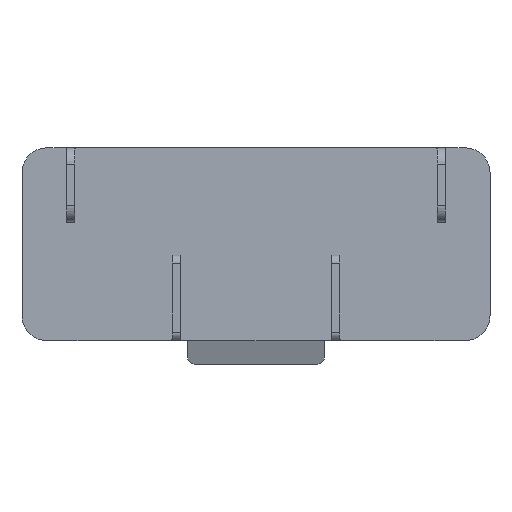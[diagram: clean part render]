
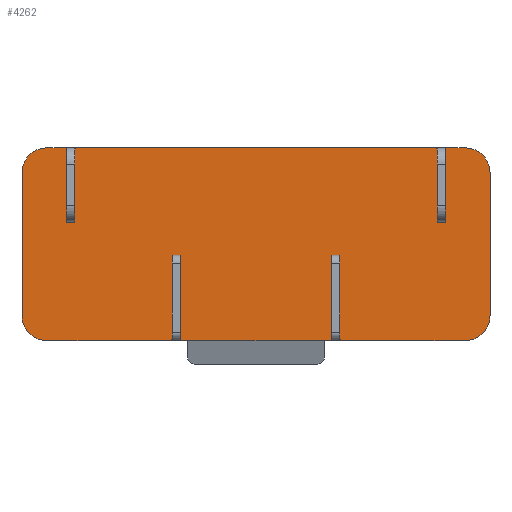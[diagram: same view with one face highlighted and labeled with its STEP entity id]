
A CAD part, top view. The second image highlights one B-rep face of the part: STEP entity #4262.
In plain terms, the highlighted planar face has unit normal (0, 0, 1).
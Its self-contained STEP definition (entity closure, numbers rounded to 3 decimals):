
#72=PLANE('',#4548);
#240=FACE_OUTER_BOUND('',#472,.T.);
#472=EDGE_LOOP('',(#3143,#3144,#3145,#3146,#3147,#3148,#3149,#3150,#3151,
#3152,#3153,#3154,#3155,#3156,#3157,#3158,#3159,#3160,#3161,#3162,#3163,
#3164,#3165,#3166,#3167,#3168,#3169,#3170,#3171,#3172,#3173,#3174));
#654=LINE('',#6146,#1136);
#675=LINE('',#6209,#1157);
#679=LINE('',#6216,#1161);
#682=LINE('',#6222,#1164);
#685=LINE('',#6230,#1167);
#689=LINE('',#6237,#1171);
#692=LINE('',#6243,#1174);
#695=LINE('',#6249,#1177);
#698=LINE('',#6255,#1180);
#699=LINE('',#6257,#1181);
#703=LINE('',#6264,#1185);
#706=LINE('',#6270,#1188);
#708=LINE('',#6273,#1190);
#738=LINE('',#6359,#1220);
#752=LINE('',#6399,#1234);
#754=LINE('',#6403,#1236);
#756=LINE('',#6407,#1238);
#758=LINE('',#6410,#1240);
#759=LINE('',#6413,#1241);
#761=LINE('',#6417,#1243);
#763=LINE('',#6421,#1245);
#765=LINE('',#6425,#1247);
#767=LINE('',#6429,#1249);
#769=LINE('',#6433,#1251);
#771=LINE('',#6436,#1253);
#772=LINE('',#6439,#1254);
#774=LINE('',#6443,#1256);
#776=LINE('',#6446,#1258);
#1136=VECTOR('',#4882,10.);
#1157=VECTOR('',#4945,10.);
#1161=VECTOR('',#4951,10.);
#1164=VECTOR('',#4956,10.);
#1167=VECTOR('',#4961,10.);
#1171=VECTOR('',#4967,10.);
#1174=VECTOR('',#4972,10.);
#1177=VECTOR('',#4977,10.);
#1180=VECTOR('',#4982,10.);
#1181=VECTOR('',#4985,10.);
#1185=VECTOR('',#4991,10.);
#1188=VECTOR('',#4996,10.);
#1190=VECTOR('',#5000,10.);
#1220=VECTOR('',#5070,10.);
#1234=VECTOR('',#5116,10.);
#1236=VECTOR('',#5120,10.);
#1238=VECTOR('',#5124,10.);
#1240=VECTOR('',#5128,10.);
#1241=VECTOR('',#5131,10.);
#1243=VECTOR('',#5135,10.);
#1245=VECTOR('',#5139,10.);
#1247=VECTOR('',#5143,10.);
#1249=VECTOR('',#5147,10.);
#1251=VECTOR('',#5151,10.);
#1253=VECTOR('',#5155,10.);
#1254=VECTOR('',#5158,10.);
#1256=VECTOR('',#5162,10.);
#1258=VECTOR('',#5166,10.);
#1615=CIRCLE('',#4464,36.);
#1617=CIRCLE('',#4468,36.);
#1639=CIRCLE('',#4517,36.);
#1640=CIRCLE('',#4520,36.);
#1779=VERTEX_POINT('',#6136);
#1780=VERTEX_POINT('',#6137);
#1783=VERTEX_POINT('',#6145);
#1785=VERTEX_POINT('',#6151);
#1803=VERTEX_POINT('',#6206);
#1804=VERTEX_POINT('',#6208);
#1806=VERTEX_POINT('',#6214);
#1808=VERTEX_POINT('',#6220);
#1811=VERTEX_POINT('',#6227);
#1812=VERTEX_POINT('',#6229);
#1814=VERTEX_POINT('',#6235);
#1816=VERTEX_POINT('',#6241);
#1818=VERTEX_POINT('',#6247);
#1820=VERTEX_POINT('',#6253);
#1822=VERTEX_POINT('',#6262);
#1824=VERTEX_POINT('',#6268);
#1858=VERTEX_POINT('',#6351);
#1859=VERTEX_POINT('',#6352);
#1860=VERTEX_POINT('',#6357);
#1861=VERTEX_POINT('',#6361);
#1869=VERTEX_POINT('',#6396);
#1870=VERTEX_POINT('',#6398);
#1871=VERTEX_POINT('',#6402);
#1872=VERTEX_POINT('',#6406);
#1873=VERTEX_POINT('',#6412);
#1874=VERTEX_POINT('',#6416);
#1875=VERTEX_POINT('',#6420);
#1876=VERTEX_POINT('',#6424);
#1877=VERTEX_POINT('',#6428);
#1878=VERTEX_POINT('',#6432);
#1879=VERTEX_POINT('',#6438);
#1880=VERTEX_POINT('',#6442);
#2210=EDGE_CURVE('',#1779,#1780,#1615,.T.);
#2214=EDGE_CURVE('',#1779,#1783,#654,.T.);
#2217=EDGE_CURVE('',#1785,#1783,#1617,.T.);
#2245=EDGE_CURVE('',#1803,#1804,#675,.T.);
#2249=EDGE_CURVE('',#1806,#1803,#679,.T.);
#2252=EDGE_CURVE('',#1808,#1806,#682,.T.);
#2255=EDGE_CURVE('',#1811,#1812,#685,.T.);
#2259=EDGE_CURVE('',#1814,#1811,#689,.T.);
#2262=EDGE_CURVE('',#1816,#1814,#692,.T.);
#2265=EDGE_CURVE('',#1818,#1816,#695,.T.);
#2268=EDGE_CURVE('',#1820,#1818,#698,.T.);
#2269=EDGE_CURVE('',#1785,#1820,#699,.T.);
#2273=EDGE_CURVE('',#1822,#1780,#703,.T.);
#2276=EDGE_CURVE('',#1824,#1822,#706,.T.);
#2278=EDGE_CURVE('',#1804,#1824,#708,.T.);
#2317=EDGE_CURVE('',#1858,#1859,#1639,.T.);
#2321=EDGE_CURVE('',#1858,#1860,#738,.T.);
#2322=EDGE_CURVE('',#1861,#1860,#1640,.T.);
#2340=EDGE_CURVE('',#1870,#1869,#752,.T.);
#2342=EDGE_CURVE('',#1871,#1870,#754,.T.);
#2344=EDGE_CURVE('',#1872,#1871,#756,.T.);
#2346=EDGE_CURVE('',#1872,#1808,#758,.T.);
#2347=EDGE_CURVE('',#1873,#1812,#759,.T.);
#2349=EDGE_CURVE('',#1874,#1873,#761,.T.);
#2351=EDGE_CURVE('',#1875,#1874,#763,.T.);
#2353=EDGE_CURVE('',#1876,#1875,#765,.T.);
#2355=EDGE_CURVE('',#1877,#1876,#767,.T.);
#2357=EDGE_CURVE('',#1878,#1877,#769,.T.);
#2359=EDGE_CURVE('',#1861,#1878,#771,.T.);
#2360=EDGE_CURVE('',#1879,#1859,#772,.T.);
#2362=EDGE_CURVE('',#1880,#1879,#774,.T.);
#2364=EDGE_CURVE('',#1869,#1880,#776,.T.);
#3143=ORIENTED_EDGE('',*,*,#2317,.F.);
#3144=ORIENTED_EDGE('',*,*,#2321,.T.);
#3145=ORIENTED_EDGE('',*,*,#2322,.F.);
#3146=ORIENTED_EDGE('',*,*,#2359,.T.);
#3147=ORIENTED_EDGE('',*,*,#2357,.T.);
#3148=ORIENTED_EDGE('',*,*,#2355,.T.);
#3149=ORIENTED_EDGE('',*,*,#2353,.T.);
#3150=ORIENTED_EDGE('',*,*,#2351,.T.);
#3151=ORIENTED_EDGE('',*,*,#2349,.T.);
#3152=ORIENTED_EDGE('',*,*,#2347,.T.);
#3153=ORIENTED_EDGE('',*,*,#2255,.F.);
#3154=ORIENTED_EDGE('',*,*,#2259,.F.);
#3155=ORIENTED_EDGE('',*,*,#2262,.F.);
#3156=ORIENTED_EDGE('',*,*,#2265,.F.);
#3157=ORIENTED_EDGE('',*,*,#2268,.F.);
#3158=ORIENTED_EDGE('',*,*,#2269,.F.);
#3159=ORIENTED_EDGE('',*,*,#2217,.T.);
#3160=ORIENTED_EDGE('',*,*,#2214,.F.);
#3161=ORIENTED_EDGE('',*,*,#2210,.T.);
#3162=ORIENTED_EDGE('',*,*,#2273,.F.);
#3163=ORIENTED_EDGE('',*,*,#2276,.F.);
#3164=ORIENTED_EDGE('',*,*,#2278,.F.);
#3165=ORIENTED_EDGE('',*,*,#2245,.F.);
#3166=ORIENTED_EDGE('',*,*,#2249,.F.);
#3167=ORIENTED_EDGE('',*,*,#2252,.F.);
#3168=ORIENTED_EDGE('',*,*,#2346,.F.);
#3169=ORIENTED_EDGE('',*,*,#2344,.T.);
#3170=ORIENTED_EDGE('',*,*,#2342,.T.);
#3171=ORIENTED_EDGE('',*,*,#2340,.T.);
#3172=ORIENTED_EDGE('',*,*,#2364,.T.);
#3173=ORIENTED_EDGE('',*,*,#2362,.T.);
#3174=ORIENTED_EDGE('',*,*,#2360,.T.);
#4262=ADVANCED_FACE('',(#240),#72,.T.);
#4464=AXIS2_PLACEMENT_3D('',#6138,#4874,#4875);
#4468=AXIS2_PLACEMENT_3D('',#6152,#4887,#4888);
#4517=AXIS2_PLACEMENT_3D('',#6353,#5063,#5064);
#4520=AXIS2_PLACEMENT_3D('',#6362,#5073,#5074);
#4548=AXIS2_PLACEMENT_3D('',#6447,#5167,#5168);
#4874=DIRECTION('center_axis',(0.,0.,1.));
#4875=DIRECTION('ref_axis',(0.707,0.707,0.));
#4882=DIRECTION('',(0.,-1.,0.));
#4887=DIRECTION('center_axis',(0.,0.,1.));
#4888=DIRECTION('ref_axis',(0.707,-0.707,0.));
#4945=DIRECTION('',(1.,0.,0.));
#4951=DIRECTION('',(0.,-1.,0.));
#4956=DIRECTION('',(0.164,-0.986,0.));
#4961=DIRECTION('',(-0.164,-0.986,0.));
#4967=DIRECTION('',(0.,-1.,0.));
#4972=DIRECTION('',(-1.,0.,0.));
#4977=DIRECTION('',(0.,1.,0.));
#4982=DIRECTION('',(-0.164,0.986,0.));
#4985=DIRECTION('',(-1.,0.,0.));
#4991=DIRECTION('',(1.,0.,0.));
#4996=DIRECTION('',(0.164,0.986,0.));
#5000=DIRECTION('',(0.,1.,0.));
#5063=DIRECTION('center_axis',(0.,0.,-1.));
#5064=DIRECTION('ref_axis',(-0.707,0.707,0.));
#5070=DIRECTION('',(0.,-1.,0.));
#5073=DIRECTION('center_axis',(0.,0.,-1.));
#5074=DIRECTION('ref_axis',(-0.707,-0.707,0.));
#5116=DIRECTION('',(-1.,0.,0.));
#5120=DIRECTION('',(0.,-1.,0.));
#5124=DIRECTION('',(-0.164,-0.986,0.));
#5128=DIRECTION('',(1.,0.,0.));
#5131=DIRECTION('',(1.,0.,0.));
#5135=DIRECTION('',(0.164,-0.986,0.));
#5139=DIRECTION('',(0.,-1.,0.));
#5143=DIRECTION('',(1.,0.,0.));
#5147=DIRECTION('',(0.,1.,0.));
#5151=DIRECTION('',(0.164,0.986,0.));
#5155=DIRECTION('',(1.,0.,0.));
#5158=DIRECTION('',(-1.,0.,0.));
#5162=DIRECTION('',(-0.164,0.986,0.));
#5166=DIRECTION('',(0.,1.,0.));
#5167=DIRECTION('center_axis',(0.,0.,1.));
#5168=DIRECTION('ref_axis',(1.,0.,0.));
#6136=CARTESIAN_POINT('',(340.,244.,12.));
#6137=CARTESIAN_POINT('',(304.,280.,12.));
#6138=CARTESIAN_POINT('Origin',(304.,244.,12.));
#6145=CARTESIAN_POINT('',(340.,36.,12.));
#6146=CARTESIAN_POINT('',(340.,0.,12.));
#6151=CARTESIAN_POINT('',(304.,0.,12.));
#6152=CARTESIAN_POINT('Origin',(304.,36.,12.));
#6206=CARTESIAN_POINT('',(263.,250.,12.));
#6208=CARTESIAN_POINT('',(275.,250.,12.));
#6209=CARTESIAN_POINT('',(275.,250.,12.));
#6214=CARTESIAN_POINT('',(263.,277.,12.));
#6216=CARTESIAN_POINT('',(263.,250.,12.));
#6220=CARTESIAN_POINT('',(262.5,280.,12.));
#6222=CARTESIAN_POINT('',(262.5,280.,12.));
#6227=CARTESIAN_POINT('',(110.,3.,12.));
#6229=CARTESIAN_POINT('',(109.5,0.,12.));
#6230=CARTESIAN_POINT('',(110.,3.,12.));
#6235=CARTESIAN_POINT('',(110.,60.,12.));
#6237=CARTESIAN_POINT('',(110.,60.,12.));
#6241=CARTESIAN_POINT('',(122.,60.,12.));
#6243=CARTESIAN_POINT('',(122.,60.,12.));
#6247=CARTESIAN_POINT('',(122.,3.,12.));
#6249=CARTESIAN_POINT('',(122.,0.,12.));
#6253=CARTESIAN_POINT('',(122.5,0.,12.));
#6255=CARTESIAN_POINT('',(122.,3.,12.));
#6257=CARTESIAN_POINT('',(0.,0.,12.));
#6262=CARTESIAN_POINT('',(275.5,280.,12.));
#6264=CARTESIAN_POINT('',(340.,280.,12.));
#6268=CARTESIAN_POINT('',(275.,277.,12.));
#6270=CARTESIAN_POINT('',(275.,277.,12.));
#6273=CARTESIAN_POINT('',(275.,280.,12.));
#6351=CARTESIAN_POINT('',(-340.,244.,12.));
#6352=CARTESIAN_POINT('',(-304.,280.,12.));
#6353=CARTESIAN_POINT('Origin',(-304.,244.,12.));
#6357=CARTESIAN_POINT('',(-340.,36.,12.));
#6359=CARTESIAN_POINT('',(-340.,0.,12.));
#6361=CARTESIAN_POINT('',(-304.,0.,12.));
#6362=CARTESIAN_POINT('Origin',(-304.,36.,12.));
#6396=CARTESIAN_POINT('',(-275.,250.,12.));
#6398=CARTESIAN_POINT('',(-263.,250.,12.));
#6399=CARTESIAN_POINT('',(-275.,250.,12.));
#6402=CARTESIAN_POINT('',(-263.,277.,12.));
#6403=CARTESIAN_POINT('',(-263.,250.,12.));
#6406=CARTESIAN_POINT('',(-262.5,280.,12.));
#6407=CARTESIAN_POINT('',(-262.5,280.,12.));
#6410=CARTESIAN_POINT('',(340.,280.,12.));
#6412=CARTESIAN_POINT('',(-109.5,0.,12.));
#6413=CARTESIAN_POINT('',(0.,0.,12.));
#6416=CARTESIAN_POINT('',(-110.,3.,12.));
#6417=CARTESIAN_POINT('',(-110.,3.,12.));
#6420=CARTESIAN_POINT('',(-110.,60.,12.));
#6421=CARTESIAN_POINT('',(-110.,60.,12.));
#6424=CARTESIAN_POINT('',(-122.,60.,12.));
#6425=CARTESIAN_POINT('',(-122.,60.,12.));
#6428=CARTESIAN_POINT('',(-122.,3.,12.));
#6429=CARTESIAN_POINT('',(-122.,0.,12.));
#6432=CARTESIAN_POINT('',(-122.5,0.,12.));
#6433=CARTESIAN_POINT('',(-122.,3.,12.));
#6436=CARTESIAN_POINT('',(0.,0.,12.));
#6438=CARTESIAN_POINT('',(-275.5,280.,12.));
#6439=CARTESIAN_POINT('',(-340.,280.,12.));
#6442=CARTESIAN_POINT('',(-275.,277.,12.));
#6443=CARTESIAN_POINT('',(-275.,277.,12.));
#6446=CARTESIAN_POINT('',(-275.,280.,12.));
#6447=CARTESIAN_POINT('Origin',(-170.,140.,12.));
